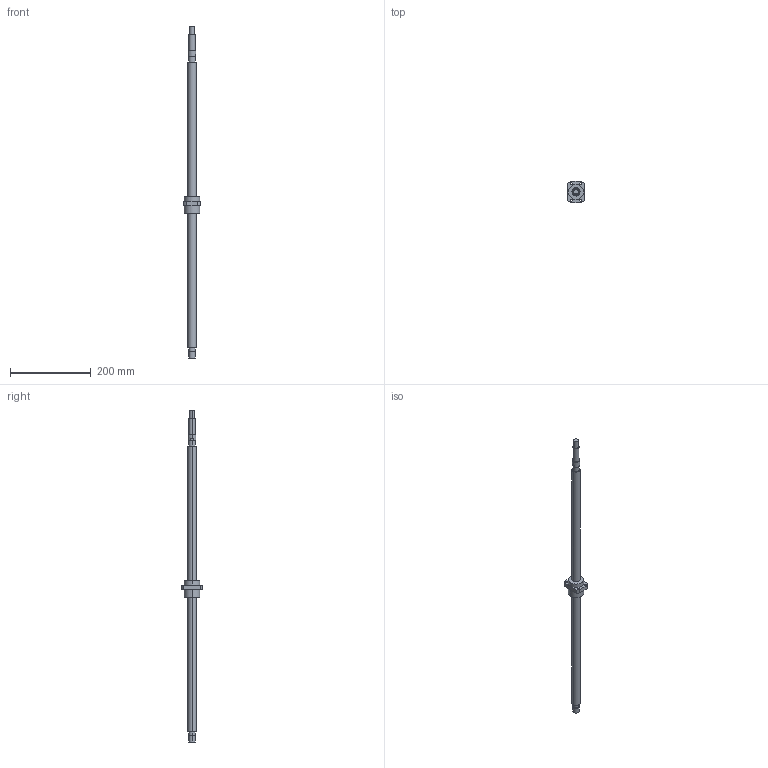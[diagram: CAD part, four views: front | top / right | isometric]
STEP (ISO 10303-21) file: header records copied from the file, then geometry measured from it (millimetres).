
FILE_DESCRIPTION((''),'2;1');
FILE_NAME('2R20-40V2-DFSH-706-820','2008-03-27T',('wcwu'),(''),'PRO/ENGINEER BY PARAMETRIC TECHNOLOGY CORPORATION, 2005070','PRO/ENGINEER BY PARAMETRIC TECHNOLOGY CORPORATION, 2005070','');
FILE_SCHEMA(('CONFIG_CONTROL_DESIGN'));
Length unit declared in the file: millimetre
Products named in the file (1): 2R20-40V2-DFSH-706-820
Bounding box: 40 x 52 x 820 mm (x, y, z)
Volume: 284591.3 mm3; surface area: 57374 mm2
Topology: 1 solids, 1 shells, 56 faces, 128 edges, 84 vertices
Faces by surface type: cylinder 34, plane 22
Entity records: 1666 total; most frequent: DIRECTION 312, CARTESIAN_POINT 268, ORIENTED_EDGE 256, AXIS2_PLACEMENT_3D 128, EDGE_CURVE 128, VERTEX_POINT 84, EDGE_LOOP 74, CIRCLE 72
